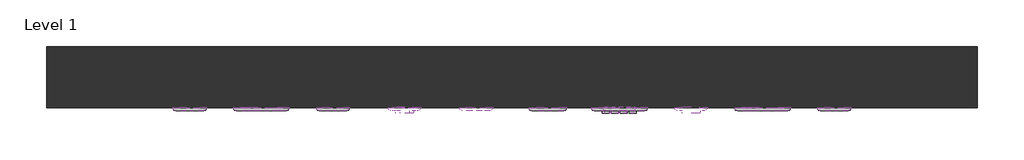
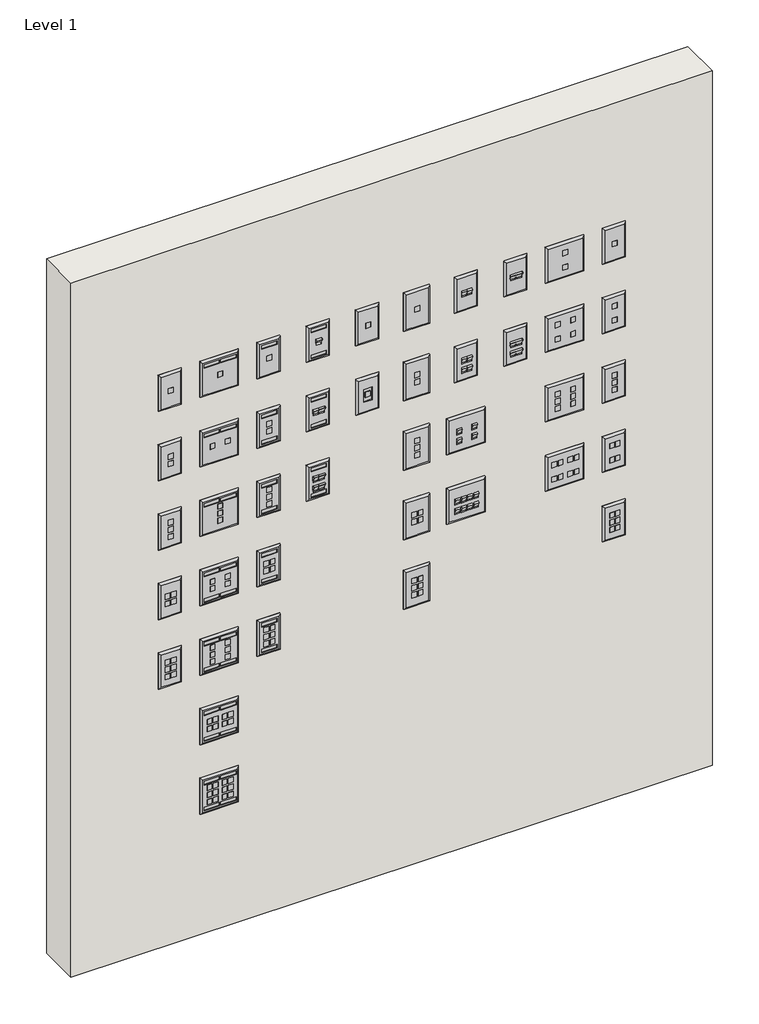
# One storey: 42 electric appliances, 1 wall.
"""IFC4 building model written with IfcOpenShell, lengths in millimetres."""

from ifc_helpers import new_model, si_unit, origin, origin_with_axes, place, context, project, spatial, polyline, outline, extrude, transform, mapped, element, save
from components import electric_appliance_76ba4eb6, electric_appliance_be22f11a, electric_appliance_4f53a3eb, electric_appliance_4bdfb50d, electric_appliance_a91dbcae, electric_appliance_1_port_dual_gang_with_id_windows_98a35fe1, electric_appliance_1_port_single_gang_666bba42, electric_appliance_1_port_single_gang_angled_with_id_window_ec6bc51b, electric_appliance_1_port_single_gang_stainless_steel_1b9ebc4b, electric_appliance_1_port_single_gang_stainless_steel_ae41313f, electric_appliance_1_port_single_gang_with_id_windows_df89d0ec, electric_appliance_12_ports_dual_gang_with_id_windows_d9852d5b, electric_appliance_2_ports_dual_gang_with_id_windows_aa394248, electric_appliance_2_ports_dual_gang_stainless_steel_f8eb9828, electric_appliance_2_ports_single_gang_735cf79b, electric_appliance_2_ports_single_gang_angled_da43e9ed, electric_appliance_2_ports_single_gang_angled_stainless_4c033270, electric_appliance_2_ports_single_gang_angled_with_id_window_8e567249, electric_appliance_2_ports_single_gang_stainless_steel_04aa31db, electric_appliance_2_ports_single_gang_with_id_windows_ff7899da, electric_appliance_3_ports_dual_gang_with_id_windows_805037b5, electric_appliance_3_ports_single_gang_4424a466, electric_appliance_3_ports_single_gang_stainless_steel_c94745d8, electric_appliance_3_ports_single_gang_with_id_windows_5d27c726, electric_appliance_4_ports_dual_gang_with_id_windows_ca147a71, electric_appliance_4_ports_dual_gang_angled_stainless_steel_6abe8cb7, electric_appliance_4_ports_dual_gang_stainless_steel_dddfb011, electric_appliance_4_ports_single_gang_7dc7a75e, electric_appliance_4_ports_single_gang_angled_b37532bb, electric_appliance_4_ports_single_gang_angled_stainless_1cfd1c8f, electric_appliance_4_ports_single_gang_angled_with_id_window_49fd2a4d, electric_appliance_4_ports_single_gang_stainless_steel_ee00b7dd, electric_appliance_4_ports_single_gang_with_id_windows_01c80b1b, electric_appliance_6_ports_dual_gang_with_id_windows_308ac3af, electric_appliance_6_ports_dual_gang_stainless_steel_d117d8a4, electric_appliance_6_ports_single_gang_104f800b, electric_appliance_6_ports_single_gang_stainless_steel_5ba1de0b, electric_appliance_6_ports_single_gang_with_id_windows_9878a6a8, electric_appliance_8_ports_dual_gang_with_id_windows_ed2c4f9c, electric_appliance_8_ports_dual_gang_angled_stainless_steel_fa04e0a8, electric_appliance_8_ports_dual_gang_stainless_steel_0040981b

model = new_model("IFC4")

# Units and contexts
model_context = context("Model", 3, world=origin())
ifc_project = project(units=[si_unit("LENGTHUNIT", "METRE", prefix="MILLI")], contexts=[model_context])

# Site, building, storey
site = spatial("IfcSite", under=ifc_project)
building = spatial("IfcBuilding", under=site)
storey = spatial("IfcBuildingStorey", under=building, Name="Level 1", Elevation=0.0)

# Electric appliances
placement = place(None, origin())
electric_appliance_shape = electric_appliance_76ba4eb6(model_context)
element("IfcElectricAppliance", 1, ObjectType="Data_Device-Work_Area-Leviton-QuickPort-Wallplate : 1 Port, Single Gang, Midsize", at=placement, inside=storey, context=model_context, shape_type="MappedRepresentation", body=[
    mapped(electric_appliance_shape, transform((-1450.0660389, 1808.9666757, 1759.6485), x_axis=(1.0, 0.0, 0.0), y_axis=(0.0, 0.0, 1.0), z_axis=(0.0, -1.0, 0.0))),
])
electric_appliance_2_shape = electric_appliance_be22f11a(model_context)
element("IfcElectricAppliance", 2, ObjectType="Data_Device-Work_Area-Leviton-QuickPort-Wallplate : 2 Ports, Single Gang, Midsize", at=placement, inside=storey, context=model_context, shape_type="MappedRepresentation", body=[
    mapped(electric_appliance_2_shape, transform((-1450.0660389, 1808.9666757, 1538.6685), x_axis=(1.0, 0.0, 0.0), y_axis=(0.0, 0.0, 1.0), z_axis=(0.0, -1.0, 0.0))),
])
electric_appliance_3_shape = electric_appliance_4f53a3eb(model_context)
element("IfcElectricAppliance", 3, ObjectType="Data_Device-Work_Area-Leviton-QuickPort-Wallplate : 3 Ports, Single Gang, Midsize", at=placement, inside=storey, context=model_context, shape_type="MappedRepresentation", body=[
    mapped(electric_appliance_3_shape, transform((-1450.0660389, 1808.9666757, 1317.6885), x_axis=(1.0, 0.0, 0.0), y_axis=(0.0, 0.0, 1.0), z_axis=(0.0, -1.0, 0.0))),
])
electric_appliance_4_shape = electric_appliance_4bdfb50d(model_context)
element("IfcElectricAppliance", 4, ObjectType="Data_Device-Work_Area-Leviton-QuickPort-Wallplate : 4 Ports, Single Gang, Midsize", at=placement, inside=storey, context=model_context, shape_type="MappedRepresentation", body=[
    mapped(electric_appliance_4_shape, transform((-1450.0660389, 1808.9666757, 1096.7085), x_axis=(1.0, 0.0, 0.0), y_axis=(0.0, 0.0, 1.0), z_axis=(0.0, -1.0, 0.0))),
])
electric_appliance_5_shape = electric_appliance_a91dbcae(model_context)
element("IfcElectricAppliance", 5, ObjectType="Data_Device-Work_Area-Leviton-QuickPort-Wallplate : 6 Ports, Single Gang, Midsize", at=placement, inside=storey, context=model_context, shape_type="MappedRepresentation", body=[
    mapped(electric_appliance_5_shape, transform((-1450.0660389, 1808.9666757, 875.7285), x_axis=(1.0, 0.0, 0.0), y_axis=(0.0, 0.0, 1.0), z_axis=(0.0, -1.0, 0.0))),
])
electric_appliance_1_port_dual_gang_with_id_windows_shape = electric_appliance_1_port_dual_gang_with_id_windows_98a35fe1(model_context)
element("IfcElectricAppliance", 6, ObjectType="Data_Device-Work_Area-Leviton-QuickPort-Wallplate : 1 Port, Dual Gang with ID Windows", at=placement, inside=storey, context=model_context, shape_type="MappedRepresentation", body=[
    mapped(electric_appliance_1_port_dual_gang_with_id_windows_shape, transform((-2044.0352696, 1808.9666757, 1759.6485), x_axis=(1.0, 0.0, 0.0), y_axis=(0.0, 0.0, 1.0), z_axis=(0.0, -1.0, 0.0))),
])
electric_appliance_1_port_single_gang_shape = electric_appliance_1_port_single_gang_666bba42(model_context)
element("IfcElectricAppliance", 7, ObjectType="Data_Device-Work_Area-Leviton-QuickPort-Wallplate : 1 Port, Single Gang", at=placement, inside=storey, context=model_context, shape_type="MappedRepresentation", body=[
    mapped(electric_appliance_1_port_single_gang_shape, transform((-2192.5275773, 1808.9666757, 1759.6485), x_axis=(1.0, 0.0, 0.0), y_axis=(0.0, 0.0, 1.0), z_axis=(0.0, -1.0, 0.0))),
])
electric_appliance_1_port_single_gang_angled_with_id_window_shape = electric_appliance_1_port_single_gang_angled_with_id_window_ec6bc51b(model_context)
element("IfcElectricAppliance", 8, ObjectType="Data_Device-Work_Area-Leviton-QuickPort-Wallplate : 1 Port, Single Gang, Angled, with ID Window", at=placement, inside=storey, context=model_context, shape_type="MappedRepresentation", body=[
    mapped(electric_appliance_1_port_single_gang_angled_with_id_window_shape, transform((-1747.0506543, 1808.9666757, 1759.6485), x_axis=(1.0, 0.0, 0.0), y_axis=(0.0, 0.0, 1.0), z_axis=(0.0, -1.0, 0.0))),
])
electric_appliance_1_port_single_gang_stainless_steel_shape = electric_appliance_1_port_single_gang_stainless_steel_1b9ebc4b(model_context)
element("IfcElectricAppliance", 9, ObjectType="Data_Device-Work_Area-Leviton-QuickPort-Wallplate : 1 Port, Single Gang, Stainless Steel", at=placement, inside=storey, context=model_context, shape_type="MappedRepresentation", body=[
    mapped(electric_appliance_1_port_single_gang_stainless_steel_shape, transform((-856.0968081, 1808.9666757, 1759.6485), x_axis=(1.0, 0.0, 0.0), y_axis=(0.0, 0.0, 1.0), z_axis=(0.0, -1.0, 0.0))),
])
element("IfcElectricAppliance", 10, ObjectType="Data_Device-Work_Area-Leviton-QuickPort-Wallplate : 1 Port, Single Gang, Stainless Steel, Flush", at=placement, inside=storey, context=model_context, shape_type="MappedRepresentation", body=[
    mapped(electric_appliance_1_port_single_gang_stainless_steel_shape, transform((-1598.5583466, 1808.9666757, 1759.6485), x_axis=(1.0, 0.0, 0.0), y_axis=(0.0, 0.0, 1.0), z_axis=(0.0, -1.0, 0.0))),
])
electric_appliance_1_port_single_gang_stainless_steel_2_shape = electric_appliance_1_port_single_gang_stainless_steel_ae41313f(model_context)
element("IfcElectricAppliance", 11, ObjectType="Data_Device-Work_Area-Leviton-QuickPort-Wallplate : 1 Port, Single Gang, Stainless Steel, Recessed", at=placement, inside=storey, context=model_context, shape_type="MappedRepresentation", body=[
    mapped(electric_appliance_1_port_single_gang_stainless_steel_2_shape, transform((-1598.5583466, 1808.9666757, 1538.6685), x_axis=(1.0, 0.0, 0.0), y_axis=(0.0, 0.0, 1.0), z_axis=(0.0, -1.0, 0.0))),
])
electric_appliance_1_port_single_gang_with_id_windows_shape = electric_appliance_1_port_single_gang_with_id_windows_df89d0ec(model_context)
element("IfcElectricAppliance", 12, ObjectType="Data_Device-Work_Area-Leviton-QuickPort-Wallplate : 1 Port, Single Gang, with ID Windows", at=placement, inside=storey, context=model_context, shape_type="MappedRepresentation", body=[
    mapped(electric_appliance_1_port_single_gang_with_id_windows_shape, transform((-1895.5429619, 1808.9666757, 1759.6485), x_axis=(1.0, 0.0, 0.0), y_axis=(0.0, 0.0, 1.0), z_axis=(0.0, -1.0, 0.0))),
])
electric_appliance_12_ports_dual_gang_with_id_windows_shape = electric_appliance_12_ports_dual_gang_with_id_windows_d9852d5b(model_context)
element("IfcElectricAppliance", 13, ObjectType="Data_Device-Work_Area-Leviton-QuickPort-Wallplate : 12 Ports, Dual Gang with ID Windows", at=placement, inside=storey, context=model_context, shape_type="MappedRepresentation", body=[
    mapped(electric_appliance_12_ports_dual_gang_with_id_windows_shape, transform((-2044.0352696, 1808.9666757, 433.7685), x_axis=(1.0, 0.0, 0.0), y_axis=(0.0, 0.0, 1.0), z_axis=(0.0, -1.0, 0.0))),
])
electric_appliance_2_ports_dual_gang_with_id_windows_shape = electric_appliance_2_ports_dual_gang_with_id_windows_aa394248(model_context)
element("IfcElectricAppliance", 14, ObjectType="Data_Device-Work_Area-Leviton-QuickPort-Wallplate : 2 Ports, Dual Gang with ID Windows", at=placement, inside=storey, context=model_context, shape_type="MappedRepresentation", body=[
    mapped(electric_appliance_2_ports_dual_gang_with_id_windows_shape, transform((-2044.0352696, 1808.9666757, 1538.6685), x_axis=(1.0, 0.0, 0.0), y_axis=(0.0, 0.0, 1.0), z_axis=(0.0, -1.0, 0.0))),
])
electric_appliance_2_ports_dual_gang_stainless_steel_shape = electric_appliance_2_ports_dual_gang_stainless_steel_f8eb9828(model_context)
element("IfcElectricAppliance", 15, ObjectType="Data_Device-Work_Area-Leviton-QuickPort-Wallplate : 2 Ports, Dual Gang, Stainless Steel", at=placement, inside=storey, context=model_context, shape_type="MappedRepresentation", body=[
    mapped(electric_appliance_2_ports_dual_gang_stainless_steel_shape, transform((-1004.5891158, 1808.9666757, 1759.6485), x_axis=(1.0, 0.0, 0.0), y_axis=(0.0, 0.0, 1.0), z_axis=(0.0, -1.0, 0.0))),
])
electric_appliance_2_ports_single_gang_shape = electric_appliance_2_ports_single_gang_735cf79b(model_context)
element("IfcElectricAppliance", 16, ObjectType="Data_Device-Work_Area-Leviton-QuickPort-Wallplate : 2 Ports, Single Gang", at=placement, inside=storey, context=model_context, shape_type="MappedRepresentation", body=[
    mapped(electric_appliance_2_ports_single_gang_shape, transform((-2192.5275773, 1808.9666757, 1538.6685), x_axis=(1.0, 0.0, 0.0), y_axis=(0.0, 0.0, 1.0), z_axis=(0.0, -1.0, 0.0))),
])
electric_appliance_2_ports_single_gang_angled_shape = electric_appliance_2_ports_single_gang_angled_da43e9ed(model_context)
element("IfcElectricAppliance", 17, ObjectType="Data_Device-Work_Area-Leviton-QuickPort-Wallplate : 2 Ports, Single Gang, Angled", at=placement, inside=storey, context=model_context, shape_type="MappedRepresentation", body=[
    mapped(electric_appliance_2_ports_single_gang_angled_shape, transform((-1153.0814235, 1808.9666757, 1759.6485), x_axis=(1.0, 0.0, 0.0), y_axis=(0.0, 0.0, 1.0), z_axis=(0.0, -1.0, 0.0))),
])
electric_appliance_2_ports_single_gang_angled_stainless_shape = electric_appliance_2_ports_single_gang_angled_stainless_4c033270(model_context)
element("IfcElectricAppliance", 18, ObjectType="Data_Device-Work_Area-Leviton-QuickPort-Wallplate : 2 Ports, Single Gang, Angled, Stainless Steel", at=placement, inside=storey, context=model_context, shape_type="MappedRepresentation", body=[
    mapped(electric_appliance_2_ports_single_gang_angled_stainless_shape, transform((-1301.5737312, 1808.9666757, 1759.6485), x_axis=(1.0, 0.0, 0.0), y_axis=(0.0, 0.0, 1.0), z_axis=(0.0, -1.0, 0.0))),
])
electric_appliance_2_ports_single_gang_angled_with_id_window_shape = electric_appliance_2_ports_single_gang_angled_with_id_window_8e567249(model_context)
element("IfcElectricAppliance", 19, ObjectType="Data_Device-Work_Area-Leviton-QuickPort-Wallplate : 2 Ports, Single Gang, Angled, with ID Window", at=placement, inside=storey, context=model_context, shape_type="MappedRepresentation", body=[
    mapped(electric_appliance_2_ports_single_gang_angled_with_id_window_shape, transform((-1747.0506543, 1808.9666757, 1538.6685), x_axis=(1.0, 0.0, 0.0), y_axis=(0.0, 0.0, 1.0), z_axis=(0.0, -1.0, 0.0))),
])
electric_appliance_2_ports_single_gang_stainless_steel_shape = electric_appliance_2_ports_single_gang_stainless_steel_04aa31db(model_context)
element("IfcElectricAppliance", 20, ObjectType="Data_Device-Work_Area-Leviton-QuickPort-Wallplate : 2 Ports, Single Gang, Stainless Steel", at=placement, inside=storey, context=model_context, shape_type="MappedRepresentation", body=[
    mapped(electric_appliance_2_ports_single_gang_stainless_steel_shape, transform((-856.0968081, 1808.9666757, 1538.6685), x_axis=(1.0, 0.0, 0.0), y_axis=(0.0, 0.0, 1.0), z_axis=(0.0, -1.0, 0.0))),
])
electric_appliance_2_ports_single_gang_with_id_windows_shape = electric_appliance_2_ports_single_gang_with_id_windows_ff7899da(model_context)
element("IfcElectricAppliance", 21, ObjectType="Data_Device-Work_Area-Leviton-QuickPort-Wallplate : 2 Ports, Single Gang, with ID Windows", at=placement, inside=storey, context=model_context, shape_type="MappedRepresentation", body=[
    mapped(electric_appliance_2_ports_single_gang_with_id_windows_shape, transform((-1895.5429619, 1808.9666757, 1538.6685), x_axis=(1.0, 0.0, 0.0), y_axis=(0.0, 0.0, 1.0), z_axis=(0.0, -1.0, 0.0))),
])
electric_appliance_3_ports_dual_gang_with_id_windows_shape = electric_appliance_3_ports_dual_gang_with_id_windows_805037b5(model_context)
element("IfcElectricAppliance", 22, ObjectType="Data_Device-Work_Area-Leviton-QuickPort-Wallplate : 3 Ports, Dual Gang with ID Windows", at=placement, inside=storey, context=model_context, shape_type="MappedRepresentation", body=[
    mapped(electric_appliance_3_ports_dual_gang_with_id_windows_shape, transform((-2044.0352696, 1808.9666757, 1317.6885), x_axis=(1.0, 0.0, 0.0), y_axis=(0.0, 0.0, 1.0), z_axis=(0.0, -1.0, 0.0))),
])
electric_appliance_3_ports_single_gang_shape = electric_appliance_3_ports_single_gang_4424a466(model_context)
element("IfcElectricAppliance", 23, ObjectType="Data_Device-Work_Area-Leviton-QuickPort-Wallplate : 3 Ports, Single Gang", at=placement, inside=storey, context=model_context, shape_type="MappedRepresentation", body=[
    mapped(electric_appliance_3_ports_single_gang_shape, transform((-2192.5275773, 1808.9666757, 1317.6885), x_axis=(1.0, 0.0, 0.0), y_axis=(0.0, 0.0, 1.0), z_axis=(0.0, -1.0, 0.0))),
])
electric_appliance_3_ports_single_gang_stainless_steel_shape = electric_appliance_3_ports_single_gang_stainless_steel_c94745d8(model_context)
element("IfcElectricAppliance", 24, ObjectType="Data_Device-Work_Area-Leviton-QuickPort-Wallplate : 3 Ports, Single Gang, Stainless Steel", at=placement, inside=storey, context=model_context, shape_type="MappedRepresentation", body=[
    mapped(electric_appliance_3_ports_single_gang_stainless_steel_shape, transform((-856.0968081, 1808.9666757, 1317.6885), x_axis=(1.0, 0.0, 0.0), y_axis=(0.0, 0.0, 1.0), z_axis=(0.0, -1.0, 0.0))),
])
electric_appliance_3_ports_single_gang_with_id_windows_shape = electric_appliance_3_ports_single_gang_with_id_windows_5d27c726(model_context)
element("IfcElectricAppliance", 25, ObjectType="Data_Device-Work_Area-Leviton-QuickPort-Wallplate : 3 Ports, Single Gang, with ID Windows", at=placement, inside=storey, context=model_context, shape_type="MappedRepresentation", body=[
    mapped(electric_appliance_3_ports_single_gang_with_id_windows_shape, transform((-1895.5429619, 1808.9666757, 1317.6885), x_axis=(1.0, 0.0, 0.0), y_axis=(0.0, 0.0, 1.0), z_axis=(0.0, -1.0, 0.0))),
])
electric_appliance_4_ports_dual_gang_with_id_windows_shape = electric_appliance_4_ports_dual_gang_with_id_windows_ca147a71(model_context)
element("IfcElectricAppliance", 26, ObjectType="Data_Device-Work_Area-Leviton-QuickPort-Wallplate : 4 Ports, Dual Gang with ID Windows", at=placement, inside=storey, context=model_context, shape_type="MappedRepresentation", body=[
    mapped(electric_appliance_4_ports_dual_gang_with_id_windows_shape, transform((-2044.0352696, 1808.9666757, 1096.7085), x_axis=(1.0, 0.0, 0.0), y_axis=(0.0, 0.0, 1.0), z_axis=(0.0, -1.0, 0.0))),
])
electric_appliance_4_ports_dual_gang_angled_stainless_steel_shape = electric_appliance_4_ports_dual_gang_angled_stainless_steel_6abe8cb7(model_context)
element("IfcElectricAppliance", 27, ObjectType="Data_Device-Work_Area-Leviton-QuickPort-Wallplate : 4 Ports, Dual Gang, Angled, Stainless Steel", at=placement, inside=storey, context=model_context, shape_type="MappedRepresentation", body=[
    mapped(electric_appliance_4_ports_dual_gang_angled_stainless_steel_shape, transform((-1301.5737312, 1808.9666757, 1317.6885), x_axis=(1.0, 0.0, 0.0), y_axis=(0.0, 0.0, 1.0), z_axis=(0.0, -1.0, 0.0))),
])
electric_appliance_4_ports_dual_gang_stainless_steel_shape = electric_appliance_4_ports_dual_gang_stainless_steel_dddfb011(model_context)
element("IfcElectricAppliance", 28, ObjectType="Data_Device-Work_Area-Leviton-QuickPort-Wallplate : 4 Ports, Dual Gang, Stainless Steel", at=placement, inside=storey, context=model_context, shape_type="MappedRepresentation", body=[
    mapped(electric_appliance_4_ports_dual_gang_stainless_steel_shape, transform((-1004.5891158, 1808.9666757, 1538.6685), x_axis=(1.0, 0.0, 0.0), y_axis=(0.0, 0.0, 1.0), z_axis=(0.0, -1.0, 0.0))),
])
electric_appliance_4_ports_single_gang_shape = electric_appliance_4_ports_single_gang_7dc7a75e(model_context)
element("IfcElectricAppliance", 29, ObjectType="Data_Device-Work_Area-Leviton-QuickPort-Wallplate : 4 Ports, Single Gang", at=placement, inside=storey, context=model_context, shape_type="MappedRepresentation", body=[
    mapped(electric_appliance_4_ports_single_gang_shape, transform((-2192.5275773, 1808.9666757, 1096.7085), x_axis=(1.0, 0.0, 0.0), y_axis=(0.0, 0.0, 1.0), z_axis=(0.0, -1.0, 0.0))),
])
electric_appliance_4_ports_single_gang_angled_shape = electric_appliance_4_ports_single_gang_angled_b37532bb(model_context)
element("IfcElectricAppliance", 30, ObjectType="Data_Device-Work_Area-Leviton-QuickPort-Wallplate : 4 Ports, Single Gang, Angled", at=placement, inside=storey, context=model_context, shape_type="MappedRepresentation", body=[
    mapped(electric_appliance_4_ports_single_gang_angled_shape, transform((-1153.0814235, 1808.9666757, 1538.6685), x_axis=(1.0, 0.0, 0.0), y_axis=(0.0, 0.0, 1.0), z_axis=(0.0, -1.0, 0.0))),
])
electric_appliance_4_ports_single_gang_angled_stainless_shape = electric_appliance_4_ports_single_gang_angled_stainless_1cfd1c8f(model_context)
element("IfcElectricAppliance", 31, ObjectType="Data_Device-Work_Area-Leviton-QuickPort-Wallplate : 4 Ports, Single Gang, Angled, Stainless Steel", at=placement, inside=storey, context=model_context, shape_type="MappedRepresentation", body=[
    mapped(electric_appliance_4_ports_single_gang_angled_stainless_shape, transform((-1301.5737312, 1808.9666757, 1538.6685), x_axis=(1.0, 0.0, 0.0), y_axis=(0.0, 0.0, 1.0), z_axis=(0.0, -1.0, 0.0))),
])
electric_appliance_4_ports_single_gang_angled_with_id_window_shape = electric_appliance_4_ports_single_gang_angled_with_id_window_49fd2a4d(model_context)
element("IfcElectricAppliance", 32, ObjectType="Data_Device-Work_Area-Leviton-QuickPort-Wallplate : 4 Ports, Single Gang, Angled, with ID Window", at=placement, inside=storey, context=model_context, shape_type="MappedRepresentation", body=[
    mapped(electric_appliance_4_ports_single_gang_angled_with_id_window_shape, transform((-1747.0506543, 1808.9666757, 1317.6885), x_axis=(1.0, 0.0, 0.0), y_axis=(0.0, 0.0, 1.0), z_axis=(0.0, -1.0, 0.0))),
])
electric_appliance_4_ports_single_gang_stainless_steel_shape = electric_appliance_4_ports_single_gang_stainless_steel_ee00b7dd(model_context)
element("IfcElectricAppliance", 33, ObjectType="Data_Device-Work_Area-Leviton-QuickPort-Wallplate : 4 Ports, Single Gang, Stainless Steel", at=placement, inside=storey, context=model_context, shape_type="MappedRepresentation", body=[
    mapped(electric_appliance_4_ports_single_gang_stainless_steel_shape, transform((-856.0968081, 1808.9666757, 1096.7085), x_axis=(1.0, 0.0, 0.0), y_axis=(0.0, 0.0, 1.0), z_axis=(0.0, -1.0, 0.0))),
])
electric_appliance_4_ports_single_gang_with_id_windows_shape = electric_appliance_4_ports_single_gang_with_id_windows_01c80b1b(model_context)
element("IfcElectricAppliance", 34, ObjectType="Data_Device-Work_Area-Leviton-QuickPort-Wallplate : 4 Ports, Single Gang, with ID Windows", at=placement, inside=storey, context=model_context, shape_type="MappedRepresentation", body=[
    mapped(electric_appliance_4_ports_single_gang_with_id_windows_shape, transform((-1895.5429619, 1808.9666757, 1096.7085), x_axis=(1.0, 0.0, 0.0), y_axis=(0.0, 0.0, 1.0), z_axis=(0.0, -1.0, 0.0))),
])
electric_appliance_6_ports_dual_gang_with_id_windows_shape = electric_appliance_6_ports_dual_gang_with_id_windows_308ac3af(model_context)
element("IfcElectricAppliance", 35, ObjectType="Data_Device-Work_Area-Leviton-QuickPort-Wallplate : 6 Ports, Dual Gang with ID Windows", at=placement, inside=storey, context=model_context, shape_type="MappedRepresentation", body=[
    mapped(electric_appliance_6_ports_dual_gang_with_id_windows_shape, transform((-2044.0352696, 1808.9666757, 875.7285), x_axis=(1.0, 0.0, 0.0), y_axis=(0.0, 0.0, 1.0), z_axis=(0.0, -1.0, 0.0))),
])
electric_appliance_6_ports_dual_gang_stainless_steel_shape = electric_appliance_6_ports_dual_gang_stainless_steel_d117d8a4(model_context)
element("IfcElectricAppliance", 36, ObjectType="Data_Device-Work_Area-Leviton-QuickPort-Wallplate : 6 Ports, Dual Gang, Stainless Steel", at=placement, inside=storey, context=model_context, shape_type="MappedRepresentation", body=[
    mapped(electric_appliance_6_ports_dual_gang_stainless_steel_shape, transform((-1004.5891158, 1808.9666757, 1317.6885), x_axis=(1.0, 0.0, 0.0), y_axis=(0.0, 0.0, 1.0), z_axis=(0.0, -1.0, 0.0))),
])
electric_appliance_6_ports_single_gang_shape = electric_appliance_6_ports_single_gang_104f800b(model_context)
element("IfcElectricAppliance", 37, ObjectType="Data_Device-Work_Area-Leviton-QuickPort-Wallplate : 6 Ports, Single Gang", at=placement, inside=storey, context=model_context, shape_type="MappedRepresentation", body=[
    mapped(electric_appliance_6_ports_single_gang_shape, transform((-2192.5275773, 1808.9666757, 875.7285), x_axis=(1.0, 0.0, 0.0), y_axis=(0.0, 0.0, 1.0), z_axis=(0.0, -1.0, 0.0))),
])
electric_appliance_6_ports_single_gang_stainless_steel_shape = electric_appliance_6_ports_single_gang_stainless_steel_5ba1de0b(model_context)
element("IfcElectricAppliance", 38, ObjectType="Data_Device-Work_Area-Leviton-QuickPort-Wallplate : 6 Ports, Single Gang, Stainless Steel", at=placement, inside=storey, context=model_context, shape_type="MappedRepresentation", body=[
    mapped(electric_appliance_6_ports_single_gang_stainless_steel_shape, transform((-856.0968081, 1808.9666757, 875.7285), x_axis=(1.0, 0.0, 0.0), y_axis=(0.0, 0.0, 1.0), z_axis=(0.0, -1.0, 0.0))),
])
electric_appliance_6_ports_single_gang_with_id_windows_shape = electric_appliance_6_ports_single_gang_with_id_windows_9878a6a8(model_context)
element("IfcElectricAppliance", 39, ObjectType="Data_Device-Work_Area-Leviton-QuickPort-Wallplate : 6 Ports, Single Gang, with ID Windows", at=placement, inside=storey, context=model_context, shape_type="MappedRepresentation", body=[
    mapped(electric_appliance_6_ports_single_gang_with_id_windows_shape, transform((-1895.5429619, 1808.9666757, 875.7285), x_axis=(1.0, 0.0, 0.0), y_axis=(0.0, 0.0, 1.0), z_axis=(0.0, -1.0, 0.0))),
])
electric_appliance_8_ports_dual_gang_with_id_windows_shape = electric_appliance_8_ports_dual_gang_with_id_windows_ed2c4f9c(model_context)
element("IfcElectricAppliance", 40, ObjectType="Data_Device-Work_Area-Leviton-QuickPort-Wallplate : 8 Ports, Dual Gang with ID Windows", at=placement, inside=storey, context=model_context, shape_type="MappedRepresentation", body=[
    mapped(electric_appliance_8_ports_dual_gang_with_id_windows_shape, transform((-2044.0352696, 1808.9666757, 654.7485), x_axis=(1.0, 0.0, 0.0), y_axis=(0.0, 0.0, 1.0), z_axis=(0.0, -1.0, 0.0))),
])
electric_appliance_8_ports_dual_gang_angled_stainless_steel_shape = electric_appliance_8_ports_dual_gang_angled_stainless_steel_fa04e0a8(model_context)
element("IfcElectricAppliance", 41, ObjectType="Data_Device-Work_Area-Leviton-QuickPort-Wallplate : 8 Ports, Dual Gang, Angled, Stainless Steel", at=placement, inside=storey, context=model_context, shape_type="MappedRepresentation", body=[
    mapped(electric_appliance_8_ports_dual_gang_angled_stainless_steel_shape, transform((-1301.5737312, 1808.9666757, 1096.7085), x_axis=(1.0, 0.0, 0.0), y_axis=(0.0, 0.0, 1.0), z_axis=(0.0, -1.0, 0.0))),
])
electric_appliance_8_ports_dual_gang_stainless_steel_shape = electric_appliance_8_ports_dual_gang_stainless_steel_0040981b(model_context)
element("IfcElectricAppliance", 42, ObjectType="Data_Device-Work_Area-Leviton-QuickPort-Wallplate : 8 Ports, Dual Gang, Stainless Steel", at=placement, inside=storey, context=model_context, shape_type="MappedRepresentation", body=[
    mapped(electric_appliance_8_ports_dual_gang_stainless_steel_shape, transform((-1004.5891158, 1808.9666757, 1096.7085), x_axis=(1.0, 0.0, 0.0), y_axis=(0.0, 0.0, 1.0), z_axis=(0.0, -1.0, 0.0))),
])

# Wall
element("IfcWall", 43, ObjectType="Generic - 5\"", at=placement, inside=storey, context=model_context, shape_type="SweptSolid", body=[
    extrude(outline(polyline([(-582.1372927, 1808.9666757), (-2512.5372927, 1808.9666757), (-2512.5372927, 1935.9666757), (-582.1372927, 1935.9666757), (-582.1372927, 1808.9666757)])), origin_with_axes(), (0.0, 0.0, 1.0), 2209.8),
])

save(model, "model.ifc")
